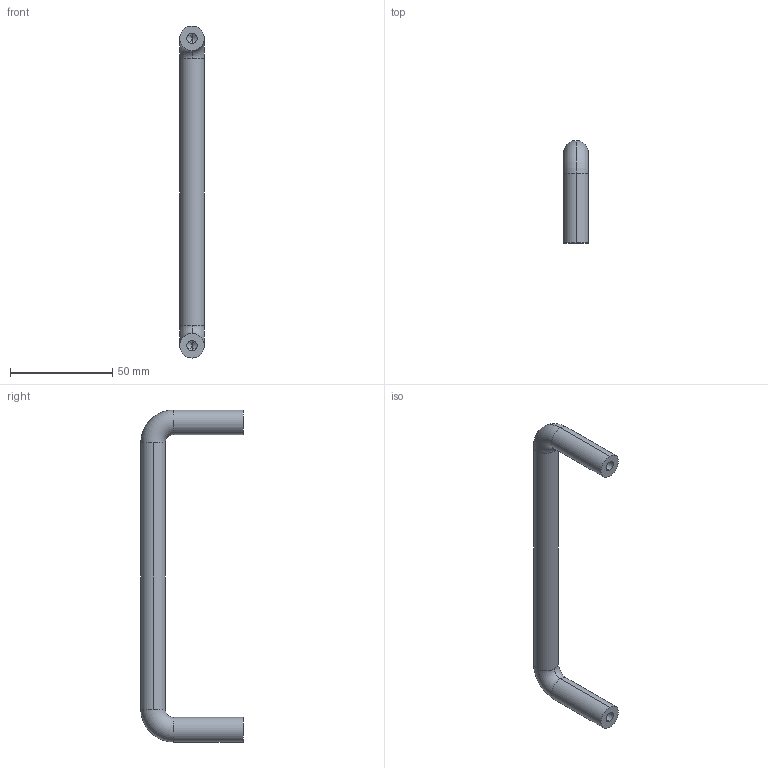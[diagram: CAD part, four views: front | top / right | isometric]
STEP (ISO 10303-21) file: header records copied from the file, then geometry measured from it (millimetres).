
FILE_DESCRIPTION (( 'STEP AP203' ), '1' );
FILE_NAME ('E03-121560.STEP', '2023-04-20T07:40:20', ( '' ), ( '' ), 'SwSTEP 2.0', 'SolidWorks 2021', '' );
FILE_SCHEMA (( 'CONFIG_CONTROL_DESIGN' ));
Length unit declared in the file: millimetre
Products named in the file (1): E03-121560
Bounding box: 12 x 50 x 162 mm (x, y, z)
Volume: 25337.6 mm3; surface area: 9352.8 mm2
Topology: 1 solids, 1 shells, 20 faces, 46 edges, 26 vertices
Faces by surface type: cylinder 10, torus 4, cone 4, plane 2
Entity records: 623 total; most frequent: DIRECTION 112, CARTESIAN_POINT 89, ORIENTED_EDGE 84, AXIS2_PLACEMENT_3D 49, EDGE_CURVE 42, CIRCLE 28, VERTEX_POINT 26, EDGE_LOOP 22
